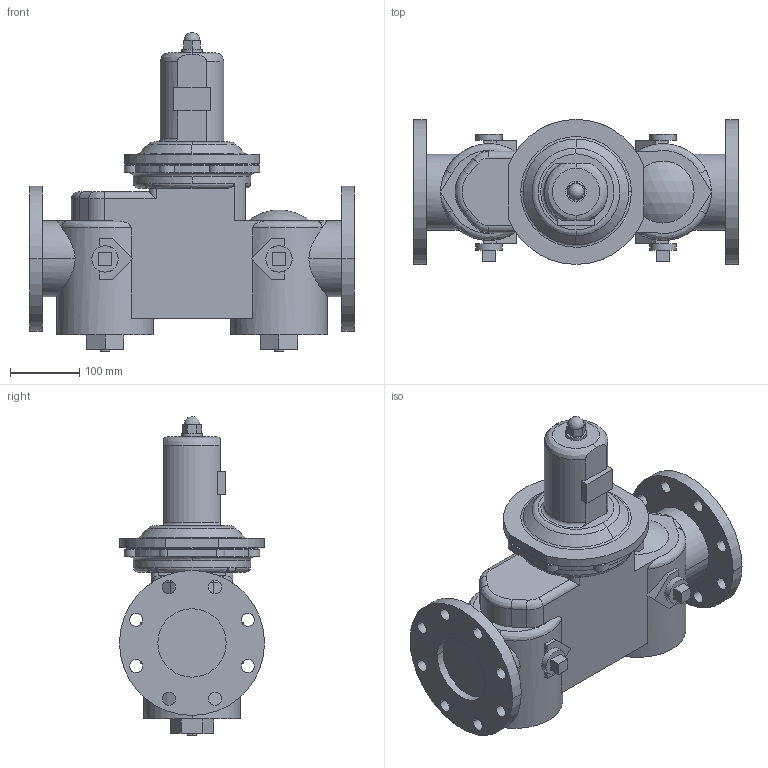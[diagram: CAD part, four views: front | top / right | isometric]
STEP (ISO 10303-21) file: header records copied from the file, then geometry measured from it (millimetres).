
FILE_DESCRIPTION( (''), '2;1');
FILE_NAME ('PC1027.4860.GD-27BP 100A_17784.stp','2025-07-25T16:48:28',(''),(''),'spGate 19.8.4 (****-****-****-****)','','');
FILE_SCHEMA (('AUTOMOTIVE_DESIGN'));
Length unit declared in the file: millimetre
Products named in the file (2): Assembly; GD-27BP 100A
Assembly tree (1 placements, depth 2):
  Assembly
    GD-27BP 100A
Bounding box: 470 x 210 x 461.92 mm (x, y, z)
Volume: 12735910.9 mm3; surface area: 588015.3 mm2
Topology: 1 solids, 1 shells, 261 faces, 701 edges, 455 vertices
Faces by surface type: cylinder 119, plane 108, bspline 32, sphere 2
Entity records: 16173 total; most frequent: CARTESIAN_POINT 4235, ORIENTED_EDGE 1386, DIRECTION 1334, COLOUR_RGB 955, PRESENTATION_STYLE_ASSIGNMENT 955, STYLED_ITEM 955, EDGE_CURVE 693, DRAUGHTING_PRE_DEFINED_CURVE_FONT 693
